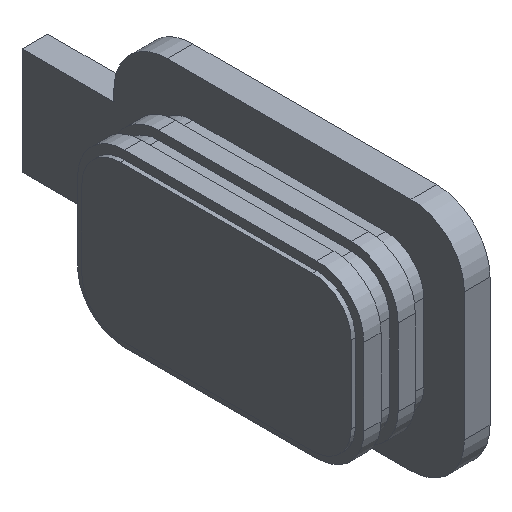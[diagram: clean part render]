
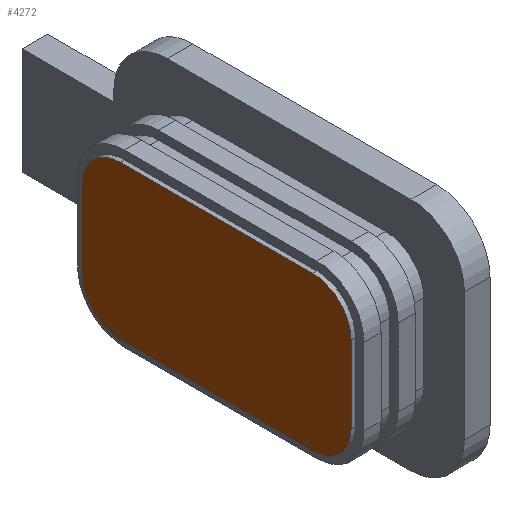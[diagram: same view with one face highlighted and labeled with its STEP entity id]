
A CAD part, isometric view. The second image highlights one B-rep face of the part: STEP entity #4272.
In plain terms, the highlighted planar face has unit normal (-1, 0, 0).
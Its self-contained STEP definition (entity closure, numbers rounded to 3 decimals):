
#3642 = PLANE('',#3643);
#3643 = AXIS2_PLACEMENT_3D('',#3644,#3645,#3646);
#3644 = CARTESIAN_POINT('',(46.8,117.5,5.3));
#3645 = DIRECTION('',(0.,1.,0.));
#3646 = DIRECTION('',(0.,-0.,1.));
#3675 = CYLINDRICAL_SURFACE('',#3676,1.8);
#3676 = AXIS2_PLACEMENT_3D('',#3677,#3678,#3679);
#3677 = CARTESIAN_POINT('',(46.8,115.7,7.1));
#3678 = DIRECTION('',(-1.,-0.,-0.));
#3679 = DIRECTION('',(0.,0.,-1.));
#3703 = PLANE('',#3704);
#3704 = AXIS2_PLACEMENT_3D('',#3705,#3706,#3707);
#3705 = CARTESIAN_POINT('',(46.8,104.9,5.3));
#3706 = DIRECTION('',(0.,0.,-1.));
#3707 = DIRECTION('',(0.,1.,0.));
#3736 = CYLINDRICAL_SURFACE('',#3737,1.8);
#3737 = AXIS2_PLACEMENT_3D('',#3738,#3739,#3740);
#3738 = CARTESIAN_POINT('',(46.8,106.7,7.1));
#3739 = DIRECTION('',(-1.,-0.,-0.));
#3740 = DIRECTION('',(0.,0.,-1.));
#3764 = PLANE('',#3765);
#3765 = AXIS2_PLACEMENT_3D('',#3766,#3767,#3768);
#3766 = CARTESIAN_POINT('',(46.8,104.9,12.5));
#3767 = DIRECTION('',(0.,-1.,0.));
#3768 = DIRECTION('',(0.,0.,-1.));
#3797 = CYLINDRICAL_SURFACE('',#3798,1.8);
#3798 = AXIS2_PLACEMENT_3D('',#3799,#3800,#3801);
#3799 = CARTESIAN_POINT('',(46.8,106.7,10.7));
#3800 = DIRECTION('',(-1.,-0.,-0.));
#3801 = DIRECTION('',(-0.,0.,1.));
#3825 = PLANE('',#3826);
#3826 = AXIS2_PLACEMENT_3D('',#3827,#3828,#3829);
#3827 = CARTESIAN_POINT('',(46.8,117.5,12.5));
#3828 = DIRECTION('',(-0.,0.,1.));
#3829 = DIRECTION('',(0.,-1.,0.));
#3856 = CYLINDRICAL_SURFACE('',#3857,1.8);
#3857 = AXIS2_PLACEMENT_3D('',#3858,#3859,#3860);
#3858 = CARTESIAN_POINT('',(46.8,115.7,10.7));
#3859 = DIRECTION('',(-1.,-0.,-0.));
#3860 = DIRECTION('',(0.,1.,0.));
#3872 = VERTEX_POINT('',#3873);
#3873 = CARTESIAN_POINT('',(43.4,117.5,10.7));
#3896 = VERTEX_POINT('',#3897);
#3897 = CARTESIAN_POINT('',(43.4,117.5,7.1));
#3918 = EDGE_CURVE('',#3896,#3872,#3919,.T.);
#3919 = SURFACE_CURVE('',#3920,(#3924,#3931),.PCURVE_S1.);
#3920 = LINE('',#3921,#3922);
#3921 = CARTESIAN_POINT('',(43.4,117.5,5.3));
#3922 = VECTOR('',#3923,1.);
#3923 = DIRECTION('',(0.,0.,1.));
#3924 = PCURVE('',#3642,#3925);
#3925 = DEFINITIONAL_REPRESENTATION('',(#3926),#3930);
#3926 = LINE('',#3927,#3928);
#3927 = CARTESIAN_POINT('',(0.,-3.4));
#3928 = VECTOR('',#3929,1.);
#3929 = DIRECTION('',(1.,0.));
#3930 = ( GEOMETRIC_REPRESENTATION_CONTEXT(2) 
PARAMETRIC_REPRESENTATION_CONTEXT() REPRESENTATION_CONTEXT('2D SPACE',''
  ) );
#3931 = PCURVE('',#3932,#3937);
#3932 = PLANE('',#3933);
#3933 = AXIS2_PLACEMENT_3D('',#3934,#3935,#3936);
#3934 = CARTESIAN_POINT('',(43.4,111.2,8.9));
#3935 = DIRECTION('',(1.,0.,0.));
#3936 = DIRECTION('',(-0.,0.,1.));
#3937 = DEFINITIONAL_REPRESENTATION('',(#3938),#3942);
#3938 = LINE('',#3939,#3940);
#3939 = CARTESIAN_POINT('',(-3.6,-6.3));
#3940 = VECTOR('',#3941,1.);
#3941 = DIRECTION('',(1.,0.));
#3942 = ( GEOMETRIC_REPRESENTATION_CONTEXT(2) 
PARAMETRIC_REPRESENTATION_CONTEXT() REPRESENTATION_CONTEXT('2D SPACE',''
  ) );
#3950 = VERTEX_POINT('',#3951);
#3951 = CARTESIAN_POINT('',(43.4,115.7,12.5));
#3972 = EDGE_CURVE('',#3872,#3950,#3973,.T.);
#3973 = SURFACE_CURVE('',#3974,(#3979,#3986),.PCURVE_S1.);
#3974 = CIRCLE('',#3975,1.8);
#3975 = AXIS2_PLACEMENT_3D('',#3976,#3977,#3978);
#3976 = CARTESIAN_POINT('',(43.4,115.7,10.7));
#3977 = DIRECTION('',(1.,0.,0.));
#3978 = DIRECTION('',(0.,0.,-1.));
#3979 = PCURVE('',#3856,#3980);
#3980 = DEFINITIONAL_REPRESENTATION('',(#3981),#3985);
#3981 = LINE('',#3982,#3983);
#3982 = CARTESIAN_POINT('',(1.571,3.4));
#3983 = VECTOR('',#3984,1.);
#3984 = DIRECTION('',(-1.,0.));
#3985 = ( GEOMETRIC_REPRESENTATION_CONTEXT(2) 
PARAMETRIC_REPRESENTATION_CONTEXT() REPRESENTATION_CONTEXT('2D SPACE',''
  ) );
#3986 = PCURVE('',#3932,#3987);
#3987 = DEFINITIONAL_REPRESENTATION('',(#3988),#3992);
#3988 = CIRCLE('',#3989,1.8);
#3989 = AXIS2_PLACEMENT_2D('',#3990,#3991);
#3990 = CARTESIAN_POINT('',(1.8,-4.5));
#3991 = DIRECTION('',(-1.,0.));
#3992 = ( GEOMETRIC_REPRESENTATION_CONTEXT(2) 
PARAMETRIC_REPRESENTATION_CONTEXT() REPRESENTATION_CONTEXT('2D SPACE',''
  ) );
#3998 = VERTEX_POINT('',#3999);
#3999 = CARTESIAN_POINT('',(43.4,106.7,12.5));
#4022 = EDGE_CURVE('',#3950,#3998,#4023,.T.);
#4023 = SURFACE_CURVE('',#4024,(#4028,#4035),.PCURVE_S1.);
#4024 = LINE('',#4025,#4026);
#4025 = CARTESIAN_POINT('',(43.4,117.5,12.5));
#4026 = VECTOR('',#4027,1.);
#4027 = DIRECTION('',(0.,-1.,0.));
#4028 = PCURVE('',#3825,#4029);
#4029 = DEFINITIONAL_REPRESENTATION('',(#4030),#4034);
#4030 = LINE('',#4031,#4032);
#4031 = CARTESIAN_POINT('',(0.,-3.4));
#4032 = VECTOR('',#4033,1.);
#4033 = DIRECTION('',(1.,0.));
#4034 = ( GEOMETRIC_REPRESENTATION_CONTEXT(2) 
PARAMETRIC_REPRESENTATION_CONTEXT() REPRESENTATION_CONTEXT('2D SPACE',''
  ) );
#4035 = PCURVE('',#3932,#4036);
#4036 = DEFINITIONAL_REPRESENTATION('',(#4037),#4041);
#4037 = LINE('',#4038,#4039);
#4038 = CARTESIAN_POINT('',(3.6,-6.3));
#4039 = VECTOR('',#4040,1.);
#4040 = DIRECTION('',(0.,1.));
#4041 = ( GEOMETRIC_REPRESENTATION_CONTEXT(2) 
PARAMETRIC_REPRESENTATION_CONTEXT() REPRESENTATION_CONTEXT('2D SPACE',''
  ) );
#4049 = VERTEX_POINT('',#4050);
#4050 = CARTESIAN_POINT('',(43.4,104.9,10.7));
#4071 = EDGE_CURVE('',#3998,#4049,#4072,.T.);
#4072 = SURFACE_CURVE('',#4073,(#4078,#4085),.PCURVE_S1.);
#4073 = CIRCLE('',#4074,1.8);
#4074 = AXIS2_PLACEMENT_3D('',#4075,#4076,#4077);
#4075 = CARTESIAN_POINT('',(43.4,106.7,10.7));
#4076 = DIRECTION('',(1.,0.,0.));
#4077 = DIRECTION('',(0.,0.,-1.));
#4078 = PCURVE('',#3797,#4079);
#4079 = DEFINITIONAL_REPRESENTATION('',(#4080),#4084);
#4080 = LINE('',#4081,#4082);
#4081 = CARTESIAN_POINT('',(3.142,3.4));
#4082 = VECTOR('',#4083,1.);
#4083 = DIRECTION('',(-1.,0.));
#4084 = ( GEOMETRIC_REPRESENTATION_CONTEXT(2) 
PARAMETRIC_REPRESENTATION_CONTEXT() REPRESENTATION_CONTEXT('2D SPACE',''
  ) );
#4085 = PCURVE('',#3932,#4086);
#4086 = DEFINITIONAL_REPRESENTATION('',(#4087),#4091);
#4087 = CIRCLE('',#4088,1.8);
#4088 = AXIS2_PLACEMENT_2D('',#4089,#4090);
#4089 = CARTESIAN_POINT('',(1.8,4.5));
#4090 = DIRECTION('',(-1.,0.));
#4091 = ( GEOMETRIC_REPRESENTATION_CONTEXT(2) 
PARAMETRIC_REPRESENTATION_CONTEXT() REPRESENTATION_CONTEXT('2D SPACE',''
  ) );
#4097 = VERTEX_POINT('',#4098);
#4098 = CARTESIAN_POINT('',(43.4,104.9,7.1));
#4121 = EDGE_CURVE('',#4049,#4097,#4122,.T.);
#4122 = SURFACE_CURVE('',#4123,(#4127,#4134),.PCURVE_S1.);
#4123 = LINE('',#4124,#4125);
#4124 = CARTESIAN_POINT('',(43.4,104.9,12.5));
#4125 = VECTOR('',#4126,1.);
#4126 = DIRECTION('',(0.,0.,-1.));
#4127 = PCURVE('',#3764,#4128);
#4128 = DEFINITIONAL_REPRESENTATION('',(#4129),#4133);
#4129 = LINE('',#4130,#4131);
#4130 = CARTESIAN_POINT('',(0.,-3.4));
#4131 = VECTOR('',#4132,1.);
#4132 = DIRECTION('',(1.,0.));
#4133 = ( GEOMETRIC_REPRESENTATION_CONTEXT(2) 
PARAMETRIC_REPRESENTATION_CONTEXT() REPRESENTATION_CONTEXT('2D SPACE',''
  ) );
#4134 = PCURVE('',#3932,#4135);
#4135 = DEFINITIONAL_REPRESENTATION('',(#4136),#4140);
#4136 = LINE('',#4137,#4138);
#4137 = CARTESIAN_POINT('',(3.6,6.3));
#4138 = VECTOR('',#4139,1.);
#4139 = DIRECTION('',(-1.,0.));
#4140 = ( GEOMETRIC_REPRESENTATION_CONTEXT(2) 
PARAMETRIC_REPRESENTATION_CONTEXT() REPRESENTATION_CONTEXT('2D SPACE',''
  ) );
#4146 = VERTEX_POINT('',#4147);
#4147 = CARTESIAN_POINT('',(43.4,106.7,5.3));
#4170 = EDGE_CURVE('',#4146,#4097,#4171,.T.);
#4171 = SURFACE_CURVE('',#4172,(#4177,#4184),.PCURVE_S1.);
#4172 = CIRCLE('',#4173,1.8);
#4173 = AXIS2_PLACEMENT_3D('',#4174,#4175,#4176);
#4174 = CARTESIAN_POINT('',(43.4,106.7,7.1));
#4175 = DIRECTION('',(-1.,-0.,-0.));
#4176 = DIRECTION('',(0.,0.,-1.));
#4177 = PCURVE('',#3736,#4178);
#4178 = DEFINITIONAL_REPRESENTATION('',(#4179),#4183);
#4179 = LINE('',#4180,#4181);
#4180 = CARTESIAN_POINT('',(0.,3.4));
#4181 = VECTOR('',#4182,1.);
#4182 = DIRECTION('',(1.,0.));
#4183 = ( GEOMETRIC_REPRESENTATION_CONTEXT(2) 
PARAMETRIC_REPRESENTATION_CONTEXT() REPRESENTATION_CONTEXT('2D SPACE',''
  ) );
#4184 = PCURVE('',#3932,#4185);
#4185 = DEFINITIONAL_REPRESENTATION('',(#4186),#4194);
#4186 = ( BOUNDED_CURVE() B_SPLINE_CURVE(2,(#4187,#4188,#4189,#4190,
#4191,#4192,#4193),.UNSPECIFIED.,.T.,.F.) B_SPLINE_CURVE_WITH_KNOTS((1,2
    ,2,2,2,1),(-2.094,0.,2.094,4.189,
6.283,8.378),.UNSPECIFIED.) CURVE() 
GEOMETRIC_REPRESENTATION_ITEM() RATIONAL_B_SPLINE_CURVE((1.,0.5,1.,0.5,
1.,0.5,1.)) REPRESENTATION_ITEM('') );
#4187 = CARTESIAN_POINT('',(-3.6,4.5));
#4188 = CARTESIAN_POINT('',(-3.6,7.618));
#4189 = CARTESIAN_POINT('',(-0.9,6.059));
#4190 = CARTESIAN_POINT('',(1.8,4.5));
#4191 = CARTESIAN_POINT('',(-0.9,2.941));
#4192 = CARTESIAN_POINT('',(-3.6,1.382));
#4193 = CARTESIAN_POINT('',(-3.6,4.5));
#4194 = ( GEOMETRIC_REPRESENTATION_CONTEXT(2) 
PARAMETRIC_REPRESENTATION_CONTEXT() REPRESENTATION_CONTEXT('2D SPACE',''
  ) );
#4200 = VERTEX_POINT('',#4201);
#4201 = CARTESIAN_POINT('',(43.4,115.7,5.3));
#4224 = EDGE_CURVE('',#4146,#4200,#4225,.T.);
#4225 = SURFACE_CURVE('',#4226,(#4230,#4237),.PCURVE_S1.);
#4226 = LINE('',#4227,#4228);
#4227 = CARTESIAN_POINT('',(43.4,104.9,5.3));
#4228 = VECTOR('',#4229,1.);
#4229 = DIRECTION('',(0.,1.,0.));
#4230 = PCURVE('',#3703,#4231);
#4231 = DEFINITIONAL_REPRESENTATION('',(#4232),#4236);
#4232 = LINE('',#4233,#4234);
#4233 = CARTESIAN_POINT('',(0.,-3.4));
#4234 = VECTOR('',#4235,1.);
#4235 = DIRECTION('',(1.,0.));
#4236 = ( GEOMETRIC_REPRESENTATION_CONTEXT(2) 
PARAMETRIC_REPRESENTATION_CONTEXT() REPRESENTATION_CONTEXT('2D SPACE',''
  ) );
#4237 = PCURVE('',#3932,#4238);
#4238 = DEFINITIONAL_REPRESENTATION('',(#4239),#4243);
#4239 = LINE('',#4240,#4241);
#4240 = CARTESIAN_POINT('',(-3.6,6.3));
#4241 = VECTOR('',#4242,1.);
#4242 = DIRECTION('',(0.,-1.));
#4243 = ( GEOMETRIC_REPRESENTATION_CONTEXT(2) 
PARAMETRIC_REPRESENTATION_CONTEXT() REPRESENTATION_CONTEXT('2D SPACE',''
  ) );
#4251 = EDGE_CURVE('',#4200,#3896,#4252,.T.);
#4252 = SURFACE_CURVE('',#4253,(#4258,#4265),.PCURVE_S1.);
#4253 = CIRCLE('',#4254,1.8);
#4254 = AXIS2_PLACEMENT_3D('',#4255,#4256,#4257);
#4255 = CARTESIAN_POINT('',(43.4,115.7,7.1));
#4256 = DIRECTION('',(1.,0.,0.));
#4257 = DIRECTION('',(0.,0.,-1.));
#4258 = PCURVE('',#3675,#4259);
#4259 = DEFINITIONAL_REPRESENTATION('',(#4260),#4264);
#4260 = LINE('',#4261,#4262);
#4261 = CARTESIAN_POINT('',(-0.,3.4));
#4262 = VECTOR('',#4263,1.);
#4263 = DIRECTION('',(-1.,0.));
#4264 = ( GEOMETRIC_REPRESENTATION_CONTEXT(2) 
PARAMETRIC_REPRESENTATION_CONTEXT() REPRESENTATION_CONTEXT('2D SPACE',''
  ) );
#4265 = PCURVE('',#3932,#4266);
#4266 = DEFINITIONAL_REPRESENTATION('',(#4267),#4271);
#4267 = CIRCLE('',#4268,1.8);
#4268 = AXIS2_PLACEMENT_2D('',#4269,#4270);
#4269 = CARTESIAN_POINT('',(-1.8,-4.5));
#4270 = DIRECTION('',(-1.,0.));
#4271 = ( GEOMETRIC_REPRESENTATION_CONTEXT(2) 
PARAMETRIC_REPRESENTATION_CONTEXT() REPRESENTATION_CONTEXT('2D SPACE',''
  ) );
#4272 = ADVANCED_FACE('',(#4273),#3932,.F.);
#4273 = FACE_BOUND('',#4274,.F.);
#4274 = EDGE_LOOP('',(#4275,#4276,#4277,#4278,#4279,#4280,#4281,#4282));
#4275 = ORIENTED_EDGE('',*,*,#4224,.T.);
#4276 = ORIENTED_EDGE('',*,*,#4251,.T.);
#4277 = ORIENTED_EDGE('',*,*,#3918,.T.);
#4278 = ORIENTED_EDGE('',*,*,#3972,.T.);
#4279 = ORIENTED_EDGE('',*,*,#4022,.T.);
#4280 = ORIENTED_EDGE('',*,*,#4071,.T.);
#4281 = ORIENTED_EDGE('',*,*,#4121,.T.);
#4282 = ORIENTED_EDGE('',*,*,#4170,.F.);
